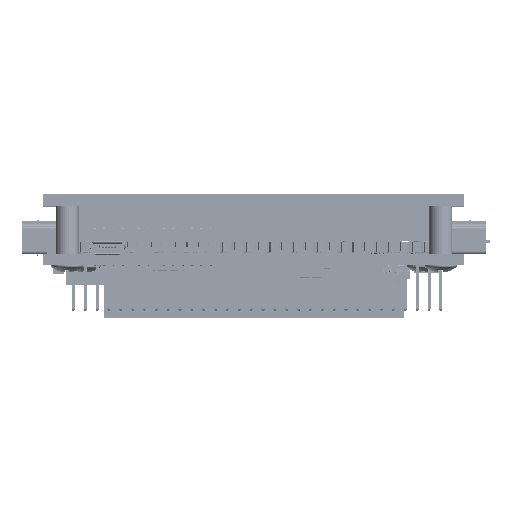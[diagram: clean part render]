
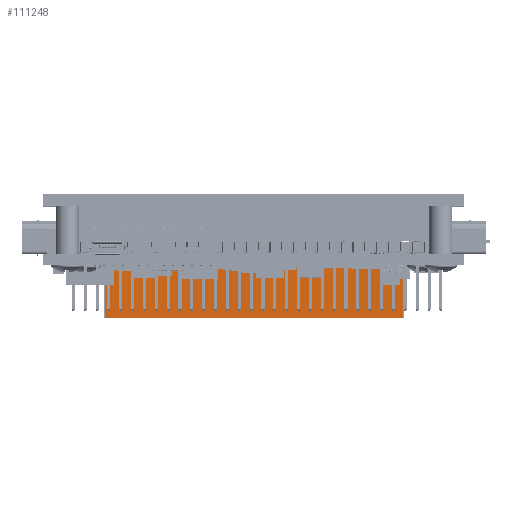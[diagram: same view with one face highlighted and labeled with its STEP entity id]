
A CAD part, top view. The second image highlights one B-rep face of the part: STEP entity #111248.
In plain terms, the highlighted planar face has unit normal (0, 0, 1) as drawn and (0, 0, -1) by its records, which use the part's own axes.
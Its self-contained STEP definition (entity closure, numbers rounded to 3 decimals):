
#75388=DIRECTION('',(1.,0.,0.));
#75389=VECTOR('',#75388,63.86);
#75390=CARTESIAN_POINT('',(-31.93,-11.2,-5.715));
#75391=LINE('',#75390,#75389);
#75436=DIRECTION('',(1.,0.,0.));
#75437=VECTOR('',#75436,63.86);
#75438=CARTESIAN_POINT('',(-31.93,0.,-5.715));
#75439=LINE('',#75438,#75437);
#75440=DIRECTION('',(0.,-1.,0.));
#75441=VECTOR('',#75440,11.2);
#75442=CARTESIAN_POINT('',(31.93,0.,-5.715));
#75443=LINE('',#75442,#75441);
#75772=DIRECTION('',(0.,-1.,0.));
#75773=VECTOR('',#75772,11.2);
#75774=CARTESIAN_POINT('',(-31.93,0.,-5.715));
#75775=LINE('',#75774,#75773);
#106659=CARTESIAN_POINT('',(31.93,0.,-5.715));
#106661=VERTEX_POINT('',#106659);
#106681=CARTESIAN_POINT('',(-31.93,0.,-5.715));
#106682=VERTEX_POINT('',#106681);
#106693=CARTESIAN_POINT('',(31.93,-11.2,-5.715));
#106695=VERTEX_POINT('',#106693);
#106697=CARTESIAN_POINT('',(-31.93,-11.2,-5.715));
#106698=VERTEX_POINT('',#106697);
#111234=CARTESIAN_POINT('',(-31.93,-11.2,-5.715));
#111235=DIRECTION('',(0.,0.,-1.));
#111236=DIRECTION('',(-1.,0.,0.));
#111237=AXIS2_PLACEMENT_3D('',#111234,#111235,#111236);
#111238=PLANE('',#111237);
#111240=ORIENTED_EDGE('',*,*,#111239,.F.);
#111242=ORIENTED_EDGE('',*,*,#111241,.T.);
#111243=ORIENTED_EDGE('',*,*,#111201,.T.);
#111245=ORIENTED_EDGE('',*,*,#111244,.F.);
#111246=EDGE_LOOP('',(#111240,#111242,#111243,#111245));
#111247=FACE_OUTER_BOUND('',#111246,.F.);
#111248=ADVANCED_FACE('',(#111247),#111238,.T.);
#111201=EDGE_CURVE('',#106698,#106695,#75391,.T.);
#111239=EDGE_CURVE('',#106682,#106661,#75439,.T.);
#111241=EDGE_CURVE('',#106682,#106698,#75775,.T.);
#111244=EDGE_CURVE('',#106661,#106695,#75443,.T.);
